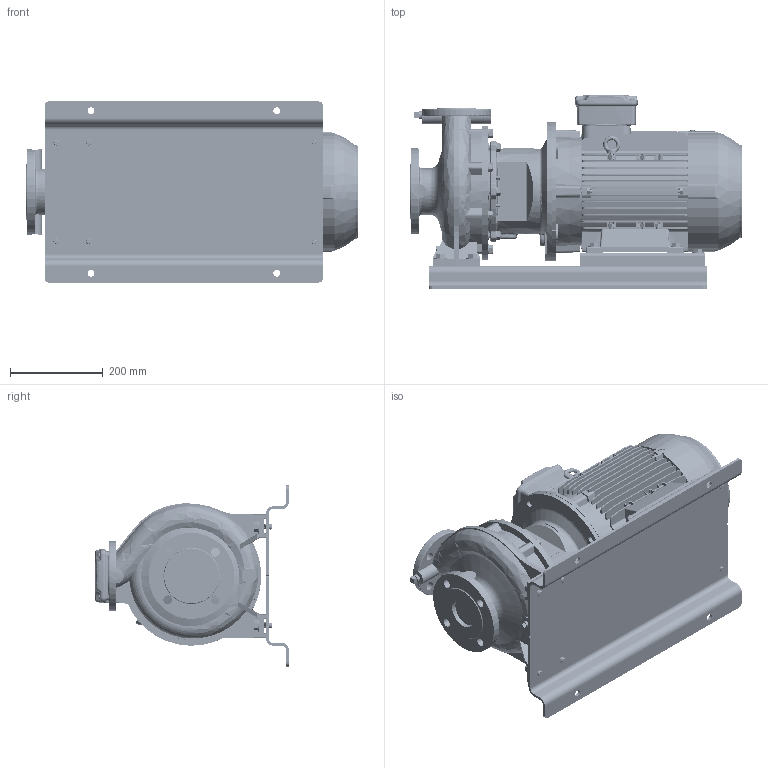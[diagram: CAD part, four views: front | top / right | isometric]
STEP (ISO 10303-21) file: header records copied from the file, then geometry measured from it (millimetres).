
FILE_DESCRIPTION (( 'STEP AP214' ), '1' );
FILE_NAME ('GSD2 40-200_9.2_(132M)_W21_BP.STEP', '2024-04-05T01:26:10', ( '' ), ( '' ), 'SwSTEP 2.0', 'SolidWorks 2019', '' );
FILE_SCHEMA (( 'AUTOMOTIVE_DESIGN' ));
Length unit declared in the file: millimetre
Products named in the file (10): N3S3 GSDA-337 F1-1832909-00; Parametric Flat Washer_M10; 40-200-132M; Parametric bolt_SFT-A299B; GSD2  40-200_9.2_(132M)_W21_BP; Parametric bolt_SFT-A253B; Parametric Flat Washer_M12; 132M ALIE3_W21T_B35; Parametric bolt_SFT-A257B; 140_178 x 28 - 271472025
Assembly tree (25 placements, depth 2):
  GSD2  40-200_9.2_(132M)_W21_BP
    40-200-132M
    N3S3 GSDA-337 F1-1832909-00
    140_178 x 28 - 271472025  x2
    Parametric bolt_SFT-A299B  x4
    Parametric bolt_SFT-A257B  x2
    Parametric bolt_SFT-A253B  x4
    Parametric Flat Washer_M10  x6
    Parametric Flat Washer_M12  x4
    132M ALIE3_W21T_B35
Bounding box: 714.8 x 418 x 390 mm (x, y, z)
Volume: 30663268.3 mm3; surface area: 2510401.5 mm2
Topology: 36 solids, 36 shells, 5255 faces, 13817 edges, 8986 vertices
Faces by surface type: plane 3017, cylinder 1360, torus 340, bspline 270, cone 236, sphere 32
Entity records: 231732 total; most frequent: CARTESIAN_POINT 63838, ORIENTED_EDGE 25382, DIRECTION 22694, EDGE_CURVE 12691, VERTEX_POINT 8270, LINE 8224, VECTOR 8224, AXIS2_PLACEMENT_3D 7235
